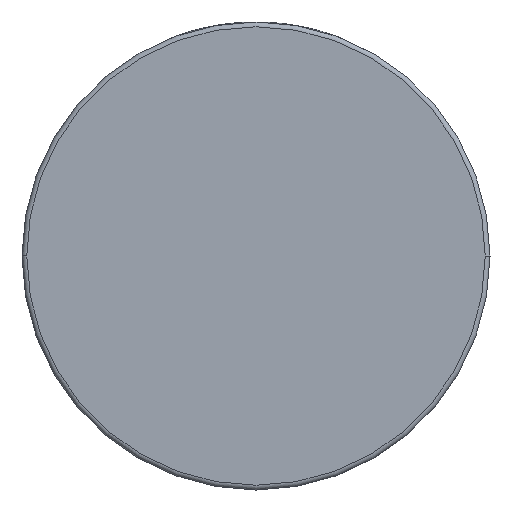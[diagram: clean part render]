
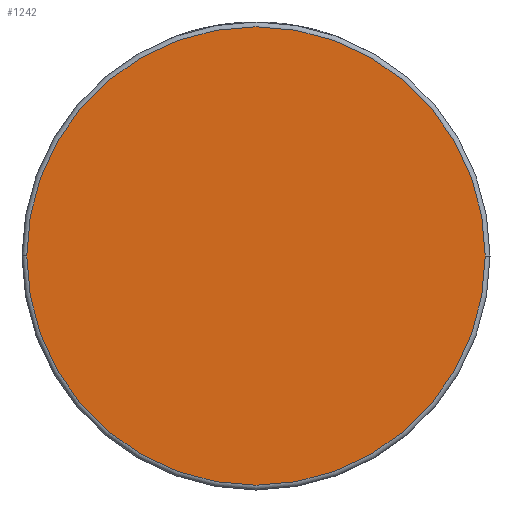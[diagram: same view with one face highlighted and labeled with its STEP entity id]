
A CAD part, front view. The second image highlights one B-rep face of the part: STEP entity #1242.
In plain terms, the highlighted planar face has unit normal (0, -1, 0).
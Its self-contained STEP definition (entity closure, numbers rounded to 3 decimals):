
#300 = DIRECTION ( 'NONE',  ( 1., 0., 0. ) ) ;
#359 = VERTEX_POINT ( 'NONE', #2887 ) ;
#413 = AXIS2_PLACEMENT_3D ( 'NONE', #630, #1966, #300 ) ;
#630 = CARTESIAN_POINT ( 'NONE',  ( 49., -31.5, 0. ) ) ;
#675 = AXIS2_PLACEMENT_3D ( 'NONE', #3128, #1542, #1134 ) ;
#951 = CARTESIAN_POINT ( 'NONE',  ( 0., -31.5, 0. ) ) ;
#1134 = DIRECTION ( 'NONE',  ( 1., 0., 0. ) ) ;
#1172 = CARTESIAN_POINT ( 'NONE',  ( -48., -31.5, 0. ) ) ;
#1242 = ADVANCED_FACE ( 'NONE', ( #4294 ), #3298, .T. ) ;
#1324 = AXIS2_PLACEMENT_3D ( 'NONE', #951, #2949, #1634 ) ;
#1452 = VERTEX_POINT ( 'NONE', #1172 ) ;
#1463 = EDGE_CURVE ( 'NONE', #359, #1452, #2864, .T. ) ;
#1542 = DIRECTION ( 'NONE',  ( 0., -1., 0. ) ) ;
#1634 = DIRECTION ( 'NONE',  ( 1., 0., 0. ) ) ;
#1966 = DIRECTION ( 'NONE',  ( 0., -1., 0. ) ) ;
#2011 = ORIENTED_EDGE ( 'NONE', *, *, #1463, .T. ) ;
#2569 = CIRCLE ( 'NONE', #675, 48. ) ;
#2628 = ORIENTED_EDGE ( 'NONE', *, *, #4112, .T. ) ;
#2864 = CIRCLE ( 'NONE', #1324, 48. ) ;
#2887 = CARTESIAN_POINT ( 'NONE',  ( 48., -31.5, 0. ) ) ;
#2949 = DIRECTION ( 'NONE',  ( 0., -1., 0. ) ) ;
#3128 = CARTESIAN_POINT ( 'NONE',  ( 0., -31.5, 0. ) ) ;
#3267 = EDGE_LOOP ( 'NONE', ( #2011, #2628 ) ) ;
#3298 = PLANE ( 'NONE',  #413 ) ;
#4112 = EDGE_CURVE ( 'NONE', #1452, #359, #2569, .T. ) ;
#4294 = FACE_OUTER_BOUND ( 'NONE', #3267, .T. ) ;
